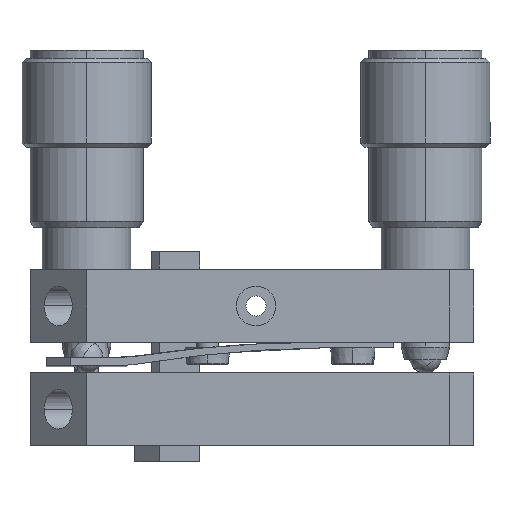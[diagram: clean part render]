
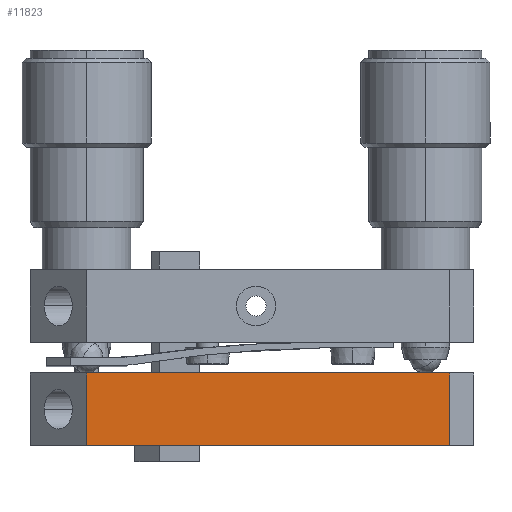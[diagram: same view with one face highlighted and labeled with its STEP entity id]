
A CAD part, front view. The second image highlights one B-rep face of the part: STEP entity #11823.
In plain terms, the highlighted planar face has unit normal (0, -1, 0).
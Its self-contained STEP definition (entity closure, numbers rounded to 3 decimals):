
#11791 = EDGE_CURVE ( 'NONE', #11792, #11795, #18837, .T. ) ;
#11792 = VERTEX_POINT ( 'NONE', #18833 ) ;
#11795 = VERTEX_POINT ( 'NONE', #18832 ) ;
#11823 = ADVANCED_FACE ( 'NONE', ( #18814 ), #18875, .T. ) ;
#11824 = EDGE_LOOP ( 'NONE', ( #11826, #11868, #11870, #11891 ) ) ;
#11826 = ORIENTED_EDGE ( 'NONE', *, *, #11791, .T. ) ;
#11862 = EDGE_CURVE ( 'NONE', #11888, #11890, #18906, .T. ) ;
#11868 = ORIENTED_EDGE ( 'NONE', *, *, #11869, .T. ) ;
#11869 = EDGE_CURVE ( 'NONE', #11795, #11890, #18896, .T. ) ;
#11870 = ORIENTED_EDGE ( 'NONE', *, *, #11862, .F. ) ;
#11888 = VERTEX_POINT ( 'NONE', #18924 ) ;
#11890 = VERTEX_POINT ( 'NONE', #18923 ) ;
#11891 = ORIENTED_EDGE ( 'NONE', *, *, #11892, .F. ) ;
#11892 = EDGE_CURVE ( 'NONE', #11792, #11888, #18922, .T. ) ;
#18814 = FACE_OUTER_BOUND ( 'NONE', #11824, .T. ) ;
#18832 = CARTESIAN_POINT ( 'NONE',  ( -47.56, -42.333, -37.055 ) ) ;
#18833 = CARTESIAN_POINT ( 'NONE',  ( -47.56, -42.333, -28.055 ) ) ;
#18834 = DIRECTION ( 'NONE',  ( 0., 0., -1. ) ) ;
#18835 = VECTOR ( 'NONE', #18834, 1000. ) ;
#18836 = CARTESIAN_POINT ( 'NONE',  ( -47.56, -42.333, -28.055 ) ) ;
#18837 = LINE ( 'NONE', #18836, #18835 ) ;
#18871 = DIRECTION ( 'NONE',  ( 1., 0., 0. ) ) ;
#18872 = DIRECTION ( 'NONE',  ( 0., -1., 0. ) ) ;
#18873 = CARTESIAN_POINT ( 'NONE',  ( -54.56, -42.333, -28.055 ) ) ;
#18874 = AXIS2_PLACEMENT_3D ( 'NONE', #18873, #18872, #18871 ) ;
#18875 = PLANE ( 'NONE',  #18874 ) ;
#18893 = DIRECTION ( 'NONE',  ( 1., 0., 0. ) ) ;
#18894 = VECTOR ( 'NONE', #18893, 1000. ) ;
#18895 = CARTESIAN_POINT ( 'NONE',  ( -54.56, -42.333, -37.055 ) ) ;
#18896 = LINE ( 'NONE', #18895, #18894 ) ;
#18903 = DIRECTION ( 'NONE',  ( 0., 0., -1. ) ) ;
#18904 = VECTOR ( 'NONE', #18903, 1000. ) ;
#18905 = CARTESIAN_POINT ( 'NONE',  ( -2.56, -42.333, -28.055 ) ) ;
#18906 = LINE ( 'NONE', #18905, #18904 ) ;
#18919 = DIRECTION ( 'NONE',  ( 1., 0., 0. ) ) ;
#18920 = VECTOR ( 'NONE', #18919, 1000. ) ;
#18921 = CARTESIAN_POINT ( 'NONE',  ( -27.06, -42.333, -28.055 ) ) ;
#18922 = LINE ( 'NONE', #18921, #18920 ) ;
#18923 = CARTESIAN_POINT ( 'NONE',  ( -2.56, -42.333, -37.055 ) ) ;
#18924 = CARTESIAN_POINT ( 'NONE',  ( -2.56, -42.333, -28.055 ) ) ;
